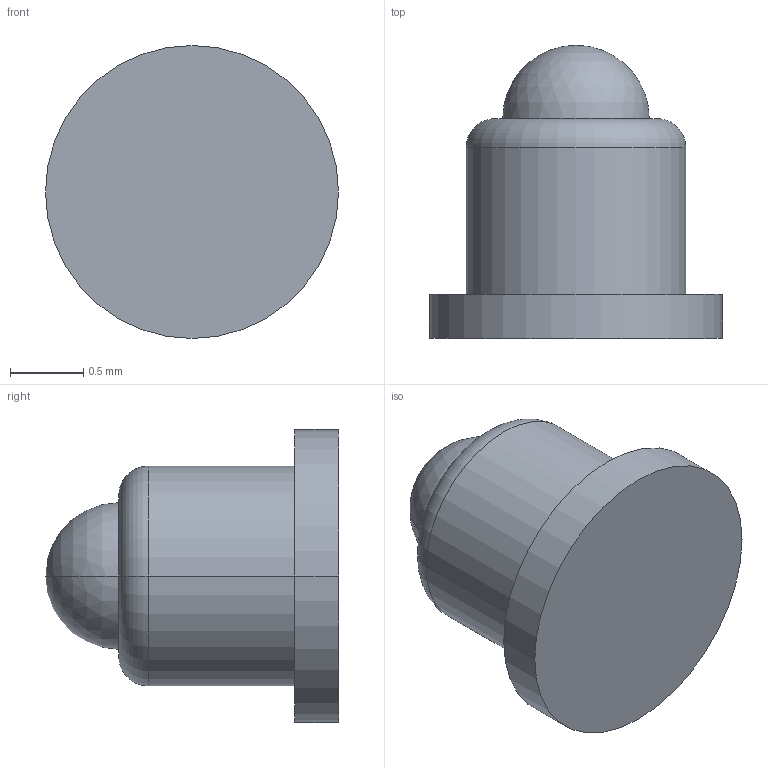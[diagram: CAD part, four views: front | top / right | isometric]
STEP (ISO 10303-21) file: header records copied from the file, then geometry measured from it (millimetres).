
FILE_DESCRIPTION((''),'2;1');
FILE_NAME('NC2746-01RA','2022-05-18T18:50:58',('Administrator'),(''),'CREO PARAMETRIC BY PTC INC, 2018400','CREO PARAMETRIC BY PTC INC, 2018400','');
FILE_SCHEMA(('CONFIG_CONTROL_DESIGN'));
Length unit declared in the file: millimetre
Products named in the file (1): NC2746-01RA
Bounding box: 2 x 2 x 2 mm (x, y, z)
Volume: 3.3 mm3; surface area: 14.2 mm2
Topology: 1 solids, 1 shells, 11 faces, 22 edges, 13 vertices
Faces by surface type: cylinder 4, plane 3, torus 2, sphere 2
Entity records: 320 total; most frequent: DIRECTION 58, CARTESIAN_POINT 44, ORIENTED_EDGE 40, AXIS2_PLACEMENT_3D 27, EDGE_CURVE 20, CIRCLE 16, VERTEX_POINT 13, EDGE_LOOP 13
